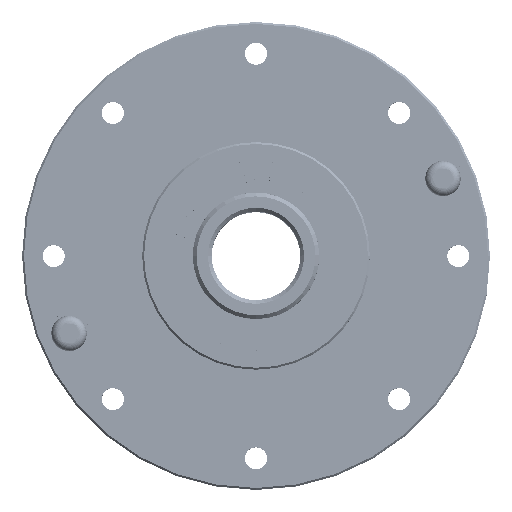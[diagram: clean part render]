
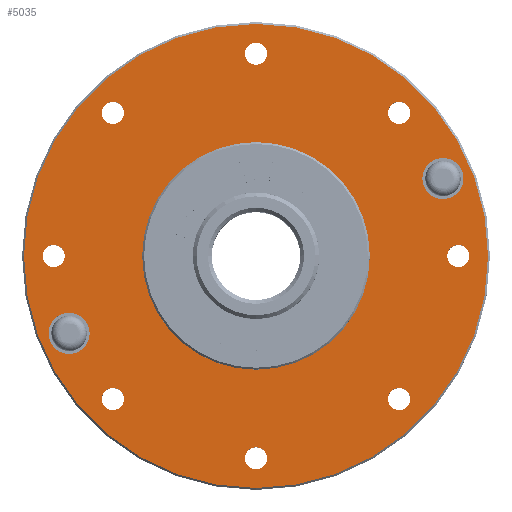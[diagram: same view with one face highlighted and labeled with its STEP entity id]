
A CAD part, top view. The second image highlights one B-rep face of the part: STEP entity #5035.
In plain terms, the highlighted planar face has unit normal (0, 0, 1).
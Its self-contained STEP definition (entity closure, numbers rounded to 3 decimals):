
#4686=PLANE('',#15624);
#5035=ADVANCED_FACE('',(#6148,#6149,#6150,#6151,#6152,#6153,#6154,#6155,
#6156,#6157,#6158,#6159),#4686,.T.);
#6148=FACE_BOUND('',#7020,.T.);
#6149=FACE_BOUND('',#7021,.T.);
#6150=FACE_BOUND('',#7022,.T.);
#6151=FACE_BOUND('',#7023,.T.);
#6152=FACE_BOUND('',#7024,.T.);
#6153=FACE_BOUND('',#7025,.T.);
#6154=FACE_BOUND('',#7026,.T.);
#6155=FACE_BOUND('',#7027,.T.);
#6156=FACE_BOUND('',#7028,.T.);
#6157=FACE_BOUND('',#7029,.T.);
#6158=FACE_BOUND('',#7030,.T.);
#6159=FACE_BOUND('',#7031,.T.);
#7020=EDGE_LOOP('',(#8352));
#7021=EDGE_LOOP('',(#8353));
#7022=EDGE_LOOP('',(#8354));
#7023=EDGE_LOOP('',(#8355));
#7024=EDGE_LOOP('',(#8356));
#7025=EDGE_LOOP('',(#8357));
#7026=EDGE_LOOP('',(#8358));
#7027=EDGE_LOOP('',(#8359));
#7028=EDGE_LOOP('',(#8360));
#7029=EDGE_LOOP('',(#8361));
#7030=EDGE_LOOP('',(#8362));
#7031=EDGE_LOOP('',(#8363));
#8352=ORIENTED_EDGE('',*,*,#13209,.T.);
#8353=ORIENTED_EDGE('',*,*,#13210,.F.);
#8354=ORIENTED_EDGE('',*,*,#13211,.F.);
#8355=ORIENTED_EDGE('',*,*,#13212,.T.);
#8356=ORIENTED_EDGE('',*,*,#13213,.F.);
#8357=ORIENTED_EDGE('',*,*,#13214,.F.);
#8358=ORIENTED_EDGE('',*,*,#13215,.F.);
#8359=ORIENTED_EDGE('',*,*,#13216,.F.);
#8360=ORIENTED_EDGE('',*,*,#13217,.F.);
#8361=ORIENTED_EDGE('',*,*,#13218,.F.);
#8362=ORIENTED_EDGE('',*,*,#13219,.F.);
#8363=ORIENTED_EDGE('',*,*,#13220,.F.);
#11872=VERTEX_POINT('',#20438);
#11873=VERTEX_POINT('',#20440);
#11874=VERTEX_POINT('',#20442);
#11875=VERTEX_POINT('',#20444);
#11876=VERTEX_POINT('',#20446);
#11877=VERTEX_POINT('',#20448);
#11878=VERTEX_POINT('',#20450);
#11879=VERTEX_POINT('',#20452);
#11880=VERTEX_POINT('',#20454);
#11881=VERTEX_POINT('',#20456);
#11882=VERTEX_POINT('',#20458);
#11883=VERTEX_POINT('',#20460);
#13209=EDGE_CURVE('',#11872,#11872,#14969,.T.);
#13210=EDGE_CURVE('',#11873,#11873,#14970,.T.);
#13211=EDGE_CURVE('',#11874,#11874,#14971,.T.);
#13212=EDGE_CURVE('',#11875,#11875,#14972,.T.);
#13213=EDGE_CURVE('',#11876,#11876,#14973,.T.);
#13214=EDGE_CURVE('',#11877,#11877,#14974,.T.);
#13215=EDGE_CURVE('',#11878,#11878,#14975,.T.);
#13216=EDGE_CURVE('',#11879,#11879,#14976,.T.);
#13217=EDGE_CURVE('',#11880,#11880,#14977,.T.);
#13218=EDGE_CURVE('',#11881,#11881,#14978,.T.);
#13219=EDGE_CURVE('',#11882,#11882,#14979,.T.);
#13220=EDGE_CURVE('',#11883,#11883,#14980,.T.);
#14969=CIRCLE('',#15612,36.7);
#14970=CIRCLE('',#15613,3.25);
#14971=CIRCLE('',#15614,3.25);
#14972=CIRCLE('',#15615,1.75);
#14973=CIRCLE('',#15616,1.75);
#14974=CIRCLE('',#15617,1.75);
#14975=CIRCLE('',#15618,1.75);
#14976=CIRCLE('',#15619,1.75);
#14977=CIRCLE('',#15620,1.75);
#14978=CIRCLE('',#15621,1.75);
#14979=CIRCLE('',#15622,1.75);
#14980=CIRCLE('',#15623,18.);
#15612=AXIS2_PLACEMENT_3D('',#20437,#17026,#17027);
#15613=AXIS2_PLACEMENT_3D('',#20439,#17028,#17029);
#15614=AXIS2_PLACEMENT_3D('',#20441,#17030,#17031);
#15615=AXIS2_PLACEMENT_3D('',#20443,#17032,#17033);
#15616=AXIS2_PLACEMENT_3D('',#20445,#17034,#17035);
#15617=AXIS2_PLACEMENT_3D('',#20447,#17036,#17037);
#15618=AXIS2_PLACEMENT_3D('',#20449,#17038,#17039);
#15619=AXIS2_PLACEMENT_3D('',#20451,#17040,#17041);
#15620=AXIS2_PLACEMENT_3D('',#20453,#17042,#17043);
#15621=AXIS2_PLACEMENT_3D('',#20455,#17044,#17045);
#15622=AXIS2_PLACEMENT_3D('',#20457,#17046,#17047);
#15623=AXIS2_PLACEMENT_3D('',#20459,#17048,#17049);
#15624=AXIS2_PLACEMENT_3D('',#20461,#17050,#17051);
#17026=DIRECTION('',(0.,0.,1.));
#17027=DIRECTION('',(1.,0.,0.));
#17028=DIRECTION('',(0.,0.,1.));
#17029=DIRECTION('',(-1.,0.,0.));
#17030=DIRECTION('',(0.,0.,1.));
#17031=DIRECTION('',(1.,0.,0.));
#17032=DIRECTION('',(0.,0.,-1.));
#17033=DIRECTION('',(1.,0.,0.));
#17034=DIRECTION('',(0.,0.,1.));
#17035=DIRECTION('',(1.,0.,0.));
#17036=DIRECTION('',(0.,0.,1.));
#17037=DIRECTION('',(1.,0.,0.));
#17038=DIRECTION('',(0.,0.,1.));
#17039=DIRECTION('',(1.,0.,0.));
#17040=DIRECTION('',(0.,0.,1.));
#17041=DIRECTION('',(1.,0.,0.));
#17042=DIRECTION('',(0.,0.,1.));
#17043=DIRECTION('',(1.,0.,0.));
#17044=DIRECTION('',(0.,0.,1.));
#17045=DIRECTION('',(1.,0.,0.));
#17046=DIRECTION('',(0.,0.,1.));
#17047=DIRECTION('',(1.,0.,0.));
#17048=DIRECTION('',(0.,0.,1.));
#17049=DIRECTION('',(1.,0.,0.));
#17050=DIRECTION('',(0.,0.,1.));
#17051=DIRECTION('',(1.,0.,0.));
#20437=CARTESIAN_POINT('',(0.,0.,9.));
#20438=CARTESIAN_POINT('',(36.7,0.,9.));
#20439=CARTESIAN_POINT('',(29.564,12.246,9.));
#20440=CARTESIAN_POINT('',(26.314,12.246,9.));
#20441=CARTESIAN_POINT('',(-29.564,-12.246,9.));
#20442=CARTESIAN_POINT('',(-26.314,-12.246,9.));
#20443=CARTESIAN_POINT('',(0.,32.,9.));
#20444=CARTESIAN_POINT('',(1.75,32.,9.));
#20445=CARTESIAN_POINT('',(0.,-32.,9.));
#20446=CARTESIAN_POINT('',(1.75,-32.,9.));
#20447=CARTESIAN_POINT('',(-22.627,22.627,9.));
#20448=CARTESIAN_POINT('',(-20.877,22.627,9.));
#20449=CARTESIAN_POINT('',(-22.627,-22.627,9.));
#20450=CARTESIAN_POINT('',(-20.877,-22.627,9.));
#20451=CARTESIAN_POINT('',(-32.,0.,9.));
#20452=CARTESIAN_POINT('',(-30.25,0.,9.));
#20453=CARTESIAN_POINT('',(22.627,-22.627,9.));
#20454=CARTESIAN_POINT('',(24.377,-22.627,9.));
#20455=CARTESIAN_POINT('',(22.627,22.627,9.));
#20456=CARTESIAN_POINT('',(24.377,22.627,9.));
#20457=CARTESIAN_POINT('',(32.,0.,9.));
#20458=CARTESIAN_POINT('',(33.75,0.,9.));
#20459=CARTESIAN_POINT('',(0.,0.,9.));
#20460=CARTESIAN_POINT('',(18.,0.,9.));
#20461=CARTESIAN_POINT('',(0.,0.,9.));
